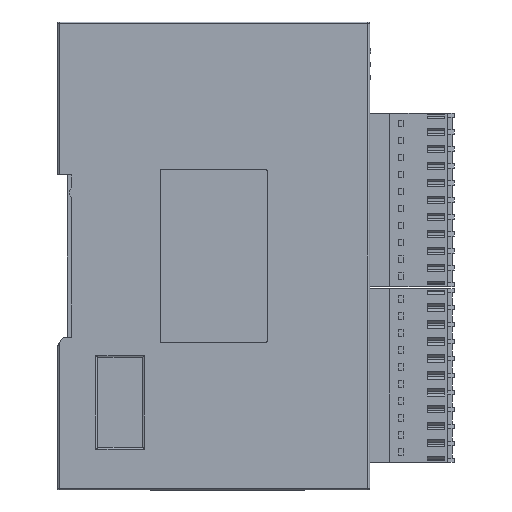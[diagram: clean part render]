
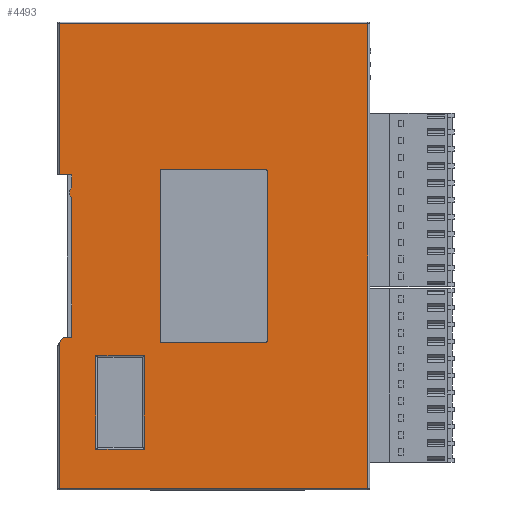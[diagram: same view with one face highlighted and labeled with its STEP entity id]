
A CAD part, left-side view. The second image highlights one B-rep face of the part: STEP entity #4493.
In plain terms, the highlighted planar face has unit normal (-1, 0, 0).
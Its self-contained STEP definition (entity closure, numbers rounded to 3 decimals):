
#4493=ADVANCED_FACE('',(#22372,#22374,#22376),#22378,.T.);
#22372=FACE_BOUND('',#22373,.T.);
#22373=EDGE_LOOP('',(#36599,#36600,#36601,#36602,#36603,#36604,#36605,#36606,#36607,
#36608,#36609));
#22374=FACE_BOUND('',#22375,.T.);
#22375=EDGE_LOOP('',(#36610,#36611,#36612,#36613,#36614,#36615,#36616,#36617));
#22376=FACE_BOUND('',#22377,.T.);
#22377=EDGE_LOOP('',(#36618,#36619,#36620,#36621));
#22378=PLANE('',#22379);
#22379=AXIS2_PLACEMENT_3D('',#22380,#22381,#22382);
#22380=CARTESIAN_POINT('',(-12.246,-44.348,-61.341));
#22381=DIRECTION('',(-1.,0.,0.));
#22382=DIRECTION('',(0.,0.,1.));
#36599=ORIENTED_EDGE('',*,*,#45630,.F.);
#36600=ORIENTED_EDGE('',*,*,#45631,.F.);
#36601=ORIENTED_EDGE('',*,*,#45632,.T.);
#36602=ORIENTED_EDGE('',*,*,#45633,.T.);
#36603=ORIENTED_EDGE('',*,*,#45634,.T.);
#36604=ORIENTED_EDGE('',*,*,#45635,.T.);
#36605=ORIENTED_EDGE('',*,*,#45636,.T.);
#36606=ORIENTED_EDGE('',*,*,#45637,.F.);
#36607=ORIENTED_EDGE('',*,*,#45638,.F.);
#36608=ORIENTED_EDGE('',*,*,#45639,.F.);
#36609=ORIENTED_EDGE('',*,*,#45350,.F.);
#36610=ORIENTED_EDGE('',*,*,#45640,.F.);
#36611=ORIENTED_EDGE('',*,*,#45641,.F.);
#36612=ORIENTED_EDGE('',*,*,#45642,.F.);
#36613=ORIENTED_EDGE('',*,*,#45643,.F.);
#36614=ORIENTED_EDGE('',*,*,#45644,.F.);
#36615=ORIENTED_EDGE('',*,*,#45645,.F.);
#36616=ORIENTED_EDGE('',*,*,#45646,.F.);
#36617=ORIENTED_EDGE('',*,*,#45647,.F.);
#36618=ORIENTED_EDGE('',*,*,#45648,.F.);
#36619=ORIENTED_EDGE('',*,*,#45649,.F.);
#36620=ORIENTED_EDGE('',*,*,#45650,.F.);
#36621=ORIENTED_EDGE('',*,*,#45651,.F.);
#45350=EDGE_CURVE('',#51482,#51480,#51484,.T.);
#45630=EDGE_CURVE('',#52021,#51482,#52022,.T.);
#45631=EDGE_CURVE('',#52023,#52021,#52024,.T.);
#45632=EDGE_CURVE('',#52023,#52025,#52026,.T.);
#45633=EDGE_CURVE('',#52025,#52027,#52028,.T.);
#45634=EDGE_CURVE('',#52027,#52029,#52030,.T.);
#45635=EDGE_CURVE('',#52029,#52031,#52032,.T.);
#45636=EDGE_CURVE('',#52031,#52033,#52034,.T.);
#45637=EDGE_CURVE('',#52035,#52033,#52036,.T.);
#45638=EDGE_CURVE('',#52037,#52035,#52038,.T.);
#45639=EDGE_CURVE('',#51480,#52037,#52039,.T.);
#45640=EDGE_CURVE('',#52040,#52041,#52042,.T.);
#45641=EDGE_CURVE('',#52043,#52040,#52044,.T.);
#45642=EDGE_CURVE('',#52045,#52043,#52046,.T.);
#45643=EDGE_CURVE('',#52047,#52045,#52048,.T.);
#45644=EDGE_CURVE('',#52049,#52047,#52050,.T.);
#45645=EDGE_CURVE('',#52051,#52049,#52052,.T.);
#45646=EDGE_CURVE('',#52053,#52051,#52054,.T.);
#45647=EDGE_CURVE('',#52041,#52053,#52055,.T.);
#45648=EDGE_CURVE('',#52056,#52057,#52058,.T.);
#45649=EDGE_CURVE('',#52059,#52056,#52060,.T.);
#45650=EDGE_CURVE('',#52061,#52059,#52062,.T.);
#45651=EDGE_CURVE('',#52057,#52061,#52063,.T.);
#51480=VERTEX_POINT('',#73676);
#51482=VERTEX_POINT('',#73681);
#51484=LINE('',#73686,#73687);
#52021=VERTEX_POINT('',#74904);
#52022=LINE('',#74905,#74906);
#52023=VERTEX_POINT('',#74908);
#52024=LINE('',#74909,#74910);
#52025=VERTEX_POINT('',#74912);
#52026=LINE('',#74913,#74914);
#52027=VERTEX_POINT('',#74916);
#52028=LINE('',#74917,#74918);
#52029=VERTEX_POINT('',#74920);
#52030=CIRCLE('',#74921,2.);
#52031=VERTEX_POINT('',#74925);
#52032=LINE('',#74926,#74927);
#52033=VERTEX_POINT('',#74929);
#52034=LINE('',#74930,#74931);
#52035=VERTEX_POINT('',#74933);
#52036=LINE('',#74934,#74935);
#52037=VERTEX_POINT('',#74937);
#52038=LINE('',#74938,#74939);
#52039=LINE('',#74941,#74942);
#52040=VERTEX_POINT('',#74944);
#52041=VERTEX_POINT('',#74945);
#52042=CIRCLE('',#74946,0.5);
#52043=VERTEX_POINT('',#74950);
#52044=LINE('',#74951,#74952);
#52045=VERTEX_POINT('',#74954);
#52046=CIRCLE('',#74955,0.5);
#52047=VERTEX_POINT('',#74959);
#52048=LINE('',#74960,#74961);
#52049=VERTEX_POINT('',#74963);
#52050=CIRCLE('',#74964,0.5);
#52051=VERTEX_POINT('',#74968);
#52052=LINE('',#74969,#74970);
#52053=VERTEX_POINT('',#74972);
#52054=CIRCLE('',#74973,0.5);
#52055=LINE('',#74977,#74978);
#52056=VERTEX_POINT('',#74980);
#52057=VERTEX_POINT('',#74981);
#52058=LINE('',#74982,#74983);
#52059=VERTEX_POINT('',#74985);
#52060=LINE('',#74986,#74987);
#52061=VERTEX_POINT('',#74989);
#52062=LINE('',#74990,#74991);
#52063=LINE('',#74993,#74994);
#73676=CARTESIAN_POINT('',(-12.246,-120.48,-50.909));
#73681=CARTESIAN_POINT('',(-12.246,-120.48,53.291));
#73686=CARTESIAN_POINT('',(-12.246,-120.48,53.291));
#73687=VECTOR('',#73688,1.);
#73688=DIRECTION('',(0.,0.,-1.));
#74904=CARTESIAN_POINT('',(-12.246,-51.28,53.291));
#74905=CARTESIAN_POINT('',(-12.246,-51.28,53.291));
#74906=VECTOR('',#74907,1.);
#74907=DIRECTION('',(0.,-1.,0.));
#74908=CARTESIAN_POINT('',(-12.246,-51.28,19.391));
#74909=CARTESIAN_POINT('',(-12.246,-51.28,19.391));
#74910=VECTOR('',#74911,1.);
#74911=DIRECTION('',(0.,0.,1.));
#74912=CARTESIAN_POINT('',(-12.246,-54.08,19.391));
#74913=CARTESIAN_POINT('',(-12.246,-51.28,19.391));
#74914=VECTOR('',#74915,1.);
#74915=DIRECTION('',(0.,-1.,0.));
#74916=CARTESIAN_POINT('',(-12.246,-54.08,16.714));
#74917=CARTESIAN_POINT('',(-12.246,-54.08,19.391));
#74918=VECTOR('',#74919,1.);
#74919=DIRECTION('',(0.,0.,-1.));
#74920=CARTESIAN_POINT('',(-12.246,-54.08,14.068));
#74921=AXIS2_PLACEMENT_3D('',#74922,#74923,#74924);
#74922=CARTESIAN_POINT('',(-12.246,-55.58,15.391));
#74923=DIRECTION('',(-1.,0.,0.));
#74924=DIRECTION('',(0.,0.75,0.661));
#74925=CARTESIAN_POINT('',(-12.246,-54.08,-17.009));
#74926=CARTESIAN_POINT('',(-12.246,-54.08,14.068));
#74927=VECTOR('',#74928,1.);
#74928=DIRECTION('',(0.,0.,-1.));
#74929=CARTESIAN_POINT('',(-12.246,-52.08,-17.009));
#74930=CARTESIAN_POINT('',(-12.246,-54.08,-17.009));
#74931=VECTOR('',#74932,1.);
#74932=DIRECTION('',(0.,1.,0.));
#74933=CARTESIAN_POINT('',(-12.246,-51.28,-18.342));
#74934=CARTESIAN_POINT('',(-12.246,-51.28,-18.342));
#74935=VECTOR('',#74936,1.);
#74936=DIRECTION('',(0.,-0.515,0.857));
#74937=CARTESIAN_POINT('',(-12.246,-51.28,-50.909));
#74938=CARTESIAN_POINT('',(-12.246,-51.28,-50.909));
#74939=VECTOR('',#74940,1.);
#74940=DIRECTION('',(0.,0.,1.));
#74941=CARTESIAN_POINT('',(-12.246,-120.48,-50.909));
#74942=VECTOR('',#74943,1.);
#74943=DIRECTION('',(0.,1.,0.));
#74944=CARTESIAN_POINT('',(-12.246,-74.38,20.691));
#74945=CARTESIAN_POINT('',(-12.246,-73.88,20.191));
#74946=AXIS2_PLACEMENT_3D('',#74947,#74948,#74949);
#74947=CARTESIAN_POINT('',(-12.246,-74.38,20.191));
#74948=DIRECTION('',(-1.,0.,0.));
#74949=DIRECTION('',(0.,0.,1.));
#74950=CARTESIAN_POINT('',(-12.246,-97.38,20.691));
#74951=CARTESIAN_POINT('',(-12.246,-97.38,20.691));
#74952=VECTOR('',#74953,1.);
#74953=DIRECTION('',(0.,1.,0.));
#74954=CARTESIAN_POINT('',(-12.246,-97.88,20.191));
#74955=AXIS2_PLACEMENT_3D('',#74956,#74957,#74958);
#74956=CARTESIAN_POINT('',(-12.246,-97.38,20.191));
#74957=DIRECTION('',(-1.,0.,0.));
#74958=DIRECTION('',(0.,-1.,0.));
#74959=CARTESIAN_POINT('',(-12.246,-97.88,-17.809));
#74960=CARTESIAN_POINT('',(-12.246,-97.88,-17.809));
#74961=VECTOR('',#74962,1.);
#74962=DIRECTION('',(0.,0.,1.));
#74963=CARTESIAN_POINT('',(-12.246,-97.38,-18.309));
#74964=AXIS2_PLACEMENT_3D('',#74965,#74966,#74967);
#74965=CARTESIAN_POINT('',(-12.246,-97.38,-17.809));
#74966=DIRECTION('',(-1.,0.,0.));
#74967=DIRECTION('',(0.,0.,-1.));
#74968=CARTESIAN_POINT('',(-12.246,-74.38,-18.309));
#74969=CARTESIAN_POINT('',(-12.246,-74.38,-18.309));
#74970=VECTOR('',#74971,1.);
#74971=DIRECTION('',(0.,-1.,0.));
#74972=CARTESIAN_POINT('',(-12.246,-73.88,-17.809));
#74973=AXIS2_PLACEMENT_3D('',#74974,#74975,#74976);
#74974=CARTESIAN_POINT('',(-12.246,-74.38,-17.809));
#74975=DIRECTION('',(-1.,0.,0.));
#74976=DIRECTION('',(0.,1.,0.));
#74977=CARTESIAN_POINT('',(-12.246,-73.88,20.191));
#74978=VECTOR('',#74979,1.);
#74979=DIRECTION('',(0.,0.,-1.));
#74980=CARTESIAN_POINT('',(-12.246,-70.34,-21.159));
#74981=CARTESIAN_POINT('',(-12.246,-59.45,-21.159));
#74982=CARTESIAN_POINT('',(-12.246,-70.34,-21.159));
#74983=VECTOR('',#74984,1.);
#74984=DIRECTION('',(0.,1.,0.));
#74985=CARTESIAN_POINT('',(-12.246,-70.34,-42.159));
#74986=CARTESIAN_POINT('',(-12.246,-70.34,-42.159));
#74987=VECTOR('',#74988,1.);
#74988=DIRECTION('',(0.,0.,1.));
#74989=CARTESIAN_POINT('',(-12.246,-59.45,-42.159));
#74990=CARTESIAN_POINT('',(-12.246,-59.45,-42.159));
#74991=VECTOR('',#74992,1.);
#74992=DIRECTION('',(0.,-1.,0.));
#74993=CARTESIAN_POINT('',(-12.246,-59.45,-21.159));
#74994=VECTOR('',#74995,1.);
#74995=DIRECTION('',(0.,0.,-1.));
